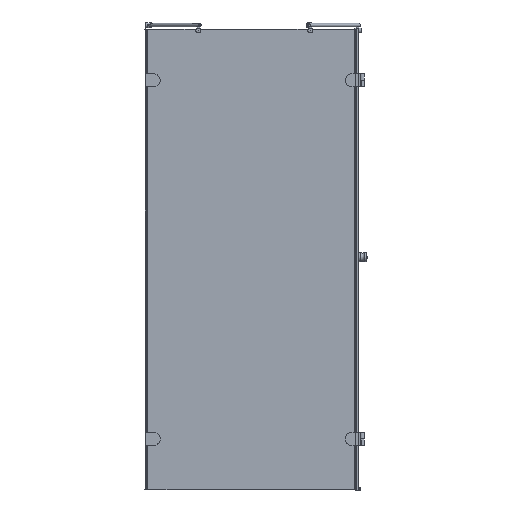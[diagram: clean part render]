
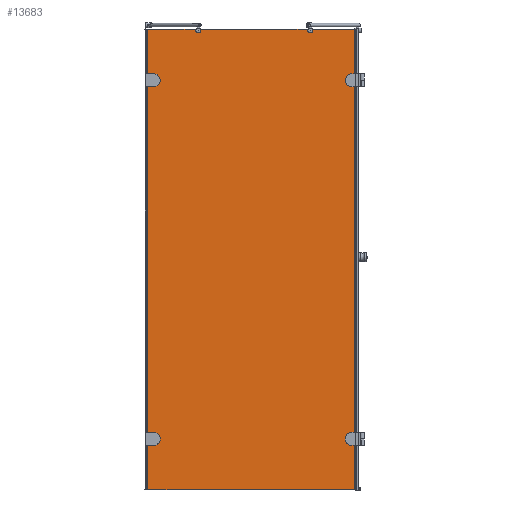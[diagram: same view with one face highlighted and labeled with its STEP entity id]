
A CAD part, front view. The second image highlights one B-rep face of the part: STEP entity #13683.
In plain terms, the highlighted planar face has unit normal (0, -1, 0).
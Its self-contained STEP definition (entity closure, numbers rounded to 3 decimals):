
#363=LINE($,#20129,#1662);
#368=LINE($,#20143,#1667);
#371=LINE($,#20148,#1670);
#413=LINE($,#20356,#1712);
#418=LINE($,#20370,#1717);
#421=LINE($,#20375,#1720);
#528=LINE($,#21201,#1827);
#529=LINE($,#21205,#1828);
#530=LINE($,#21207,#1829);
#531=LINE($,#21209,#1830);
#532=LINE($,#21211,#1831);
#533=LINE($,#21212,#1832);
#1662=VECTOR($,#16267,15.);
#1667=VECTOR($,#16280,15.);
#1670=VECTOR($,#16285,52.);
#1712=VECTOR($,#16435,15.);
#1717=VECTOR($,#16448,15.);
#1720=VECTOR($,#16453,52.);
#1827=VECTOR($,#16884,444.574);
#1828=VECTOR($,#16887,198.474);
#1829=VECTOR($,#16888,1900.);
#1830=VECTOR($,#16889,853.3);
#1831=VECTOR($,#16890,1900.);
#1832=VECTOR($,#16891,174.531);
#3074=FACE_BOUND($,#4280,.T.);
#3075=FACE_BOUND($,#4281,.T.);
#3076=FACE_BOUND($,#4282,.T.);
#3077=FACE_BOUND($,#4283,.T.);
#3078=FACE_BOUND($,#4284,.T.);
#4280=EDGE_LOOP($,(#9621));
#4281=EDGE_LOOP($,(#9622));
#4282=EDGE_LOOP($,(#9623,#9624,#9625,#9626));
#4283=EDGE_LOOP($,(#9627,#9628,#9629,#9630));
#4284=EDGE_LOOP($,(#9631,#9632,#9633,#9634,#9635,#9636,#9637,#9638));
#4846=CIRCLE($,#14211,5.5);
#4864=CIRCLE($,#14251,5.5);
#4937=CIRCLE($,#14458,26.);
#4966=CIRCLE($,#14517,26.);
#5034=CIRCLE($,#14659,10.);
#5047=CIRCLE($,#14683,10.);
#5319=VERTEX_POINT($,#19365);
#5349=VERTEX_POINT($,#19455);
#5570=VERTEX_POINT($,#20127);
#5571=VERTEX_POINT($,#20128);
#5574=VERTEX_POINT($,#20136);
#5576=VERTEX_POINT($,#20142);
#5628=VERTEX_POINT($,#20354);
#5629=VERTEX_POINT($,#20355);
#5632=VERTEX_POINT($,#20363);
#5634=VERTEX_POINT($,#20369);
#5766=VERTEX_POINT($,#20966);
#5767=VERTEX_POINT($,#20968);
#5788=VERTEX_POINT($,#21200);
#5789=VERTEX_POINT($,#21202);
#5790=VERTEX_POINT($,#21204);
#5791=VERTEX_POINT($,#21206);
#5792=VERTEX_POINT($,#21208);
#5793=VERTEX_POINT($,#21210);
#6533=EDGE_CURVE($,#5319,#5319,#4846,.T.);
#6571=EDGE_CURVE($,#5349,#5349,#4864,.T.);
#6889=EDGE_CURVE($,#5570,#5571,#363,.T.);
#6893=EDGE_CURVE($,#5571,#5574,#4937,.T.);
#6896=EDGE_CURVE($,#5574,#5576,#368,.T.);
#6899=EDGE_CURVE($,#5576,#5570,#371,.T.);
#6970=EDGE_CURVE($,#5628,#5629,#413,.T.);
#6974=EDGE_CURVE($,#5629,#5632,#4966,.T.);
#6977=EDGE_CURVE($,#5632,#5634,#418,.T.);
#6980=EDGE_CURVE($,#5634,#5628,#421,.T.);
#7160=EDGE_CURVE($,#5767,#5766,#5034,.T.);
#7184=EDGE_CURVE($,#5766,#5788,#528,.T.);
#7185=EDGE_CURVE($,#5788,#5789,#5047,.T.);
#7186=EDGE_CURVE($,#5789,#5790,#529,.T.);
#7187=EDGE_CURVE($,#5790,#5791,#530,.T.);
#7188=EDGE_CURVE($,#5792,#5791,#531,.T.);
#7189=EDGE_CURVE($,#5792,#5793,#532,.T.);
#7190=EDGE_CURVE($,#5793,#5767,#533,.T.);
#9621=ORIENTED_EDGE($,*,*,#6533,.T.);
#9622=ORIENTED_EDGE($,*,*,#6571,.T.);
#9623=ORIENTED_EDGE($,*,*,#6889,.T.);
#9624=ORIENTED_EDGE($,*,*,#6893,.T.);
#9625=ORIENTED_EDGE($,*,*,#6896,.T.);
#9626=ORIENTED_EDGE($,*,*,#6899,.T.);
#9627=ORIENTED_EDGE($,*,*,#6970,.T.);
#9628=ORIENTED_EDGE($,*,*,#6974,.T.);
#9629=ORIENTED_EDGE($,*,*,#6977,.T.);
#9630=ORIENTED_EDGE($,*,*,#6980,.T.);
#9631=ORIENTED_EDGE($,*,*,#7160,.T.);
#9632=ORIENTED_EDGE($,*,*,#7184,.T.);
#9633=ORIENTED_EDGE($,*,*,#7185,.T.);
#9634=ORIENTED_EDGE($,*,*,#7186,.T.);
#9635=ORIENTED_EDGE($,*,*,#7187,.T.);
#9636=ORIENTED_EDGE($,*,*,#7188,.F.);
#9637=ORIENTED_EDGE($,*,*,#7189,.T.);
#9638=ORIENTED_EDGE($,*,*,#7190,.T.);
#12259=PLANE($,#14682);
#13683=ADVANCED_FACE($,(#3074,#3075,#3076,#3077,#3078),#12259,.T.);
#14211=AXIS2_PLACEMENT_3D($,#19366,#15510,#15511);
#14251=AXIS2_PLACEMENT_3D($,#19456,#15610,#15611);
#14458=AXIS2_PLACEMENT_3D($,#20137,#16273,#16274);
#14517=AXIS2_PLACEMENT_3D($,#20364,#16441,#16442);
#14659=AXIS2_PLACEMENT_3D($,#20969,#16833,#16834);
#14682=AXIS2_PLACEMENT_3D($,#21199,#16882,#16883);
#14683=AXIS2_PLACEMENT_3D($,#21203,#16885,#16886);
#15510=DIRECTION('center_axis',(0.,1.,0.));
#15511=DIRECTION('ref_axis',(1.,0.,0.));
#15610=DIRECTION('center_axis',(0.,1.,0.));
#15611=DIRECTION('ref_axis',(1.,0.,0.));
#16267=DIRECTION($,(1.,0.,0.));
#16273=DIRECTION('center_axis',(0.,1.,0.));
#16274=DIRECTION('ref_axis',(0.,0.,
1.));
#16280=DIRECTION($,(-1.,0.,0.));
#16285=DIRECTION($,(0.,0.,1.));
#16435=DIRECTION($,(1.,0.,0.));
#16441=DIRECTION('center_axis',(0.,1.,0.));
#16442=DIRECTION('ref_axis',(0.,0.,
1.));
#16448=DIRECTION($,(-1.,0.,0.));
#16453=DIRECTION($,(0.,0.,1.));
#16833=DIRECTION('center_axis',(0.,1.,0.));
#16834=DIRECTION('ref_axis',(-0.947,0.,-0.322));
#16882=DIRECTION('center_axis',(0.,-1.,0.));
#16883=DIRECTION('ref_axis',(-1.,0.,0.));
#16884=DIRECTION($,(-1.,0.,0.));
#16885=DIRECTION('center_axis',(0.,1.,0.));
#16886=DIRECTION('ref_axis',(-0.597,0.,
0.802));
#16887=DIRECTION($,(-1.,0.,0.));
#16888=DIRECTION($,(0.,0.,-1.));
#16889=DIRECTION($,(-1.,0.,0.));
#16890=DIRECTION($,(0.,0.,1.));
#16891=DIRECTION($,(-1.,0.,0.));
#19365=CARTESIAN_POINT('',(1208.519,-134.044,-304.056));
#19366=CARTESIAN_POINT('Origin',(1214.019,-134.044,-304.056));
#19455=CARTESIAN_POINT('',(1208.519,-134.044,1175.944));
#19456=CARTESIAN_POINT('Origin',(1214.019,-134.044,1175.944));
#20127=CARTESIAN_POINT('',(387.019,-134.044,-278.056));
#20128=CARTESIAN_POINT('',(402.019,-134.044,-278.056));
#20129=CARTESIAN_POINT($,(819.019,-134.044,-278.056));
#20136=CARTESIAN_POINT('',(402.019,-134.044,-330.056));
#20137=CARTESIAN_POINT('Origin',(402.019,-134.044,-304.056));
#20142=CARTESIAN_POINT('',(387.019,-134.044,-330.056));
#20143=CARTESIAN_POINT($,(811.519,-134.044,-330.056));
#20148=CARTESIAN_POINT($,(387.019,-134.044,553.944));
#20354=CARTESIAN_POINT('',(387.019,-134.044,1201.944));
#20355=CARTESIAN_POINT('',(402.019,-134.044,1201.944));
#20356=CARTESIAN_POINT($,(819.019,-134.044,1201.944));
#20363=CARTESIAN_POINT('',(402.019,-134.044,1149.944));
#20364=CARTESIAN_POINT('Origin',(402.019,-134.044,1175.944));
#20369=CARTESIAN_POINT('',(387.019,-134.044,1149.944));
#20370=CARTESIAN_POINT($,(811.519,-134.044,1149.944));
#20375=CARTESIAN_POINT($,(387.019,-134.044,1293.944));
#20966=CARTESIAN_POINT('',(1038.927,-134.044,1385.944));
#20968=CARTESIAN_POINT('',(1056.788,-134.044,1385.944));
#20969=CARTESIAN_POINT('Origin',(1047.857,-134.044,1381.444));
#21199=CARTESIAN_POINT('Origin',(1236.019,-134.044,1385.944));
#21200=CARTESIAN_POINT('',(594.353,-134.044,1385.944));
#21201=CARTESIAN_POINT($,(1236.019,-134.044,1385.944));
#21202=CARTESIAN_POINT('',(576.493,-134.044,1385.944));
#21203=CARTESIAN_POINT('Origin',(585.423,-134.044,1381.444));
#21204=CARTESIAN_POINT('',(378.019,-134.044,1385.944));
#21205=CARTESIAN_POINT($,(1236.019,-134.044,1385.944));
#21206=CARTESIAN_POINT('',(378.019,-134.044,-514.056));
#21207=CARTESIAN_POINT($,(378.019,-134.044,435.944));
#21208=CARTESIAN_POINT('',(1231.319,-134.044,-514.056));
#21209=CARTESIAN_POINT($,(1236.019,-134.044,-514.056));
#21210=CARTESIAN_POINT('',(1231.319,-134.044,1385.944));
#21211=CARTESIAN_POINT($,(1231.319,-134.044,435.944));
#21212=CARTESIAN_POINT($,(1236.019,-134.044,1385.944));
